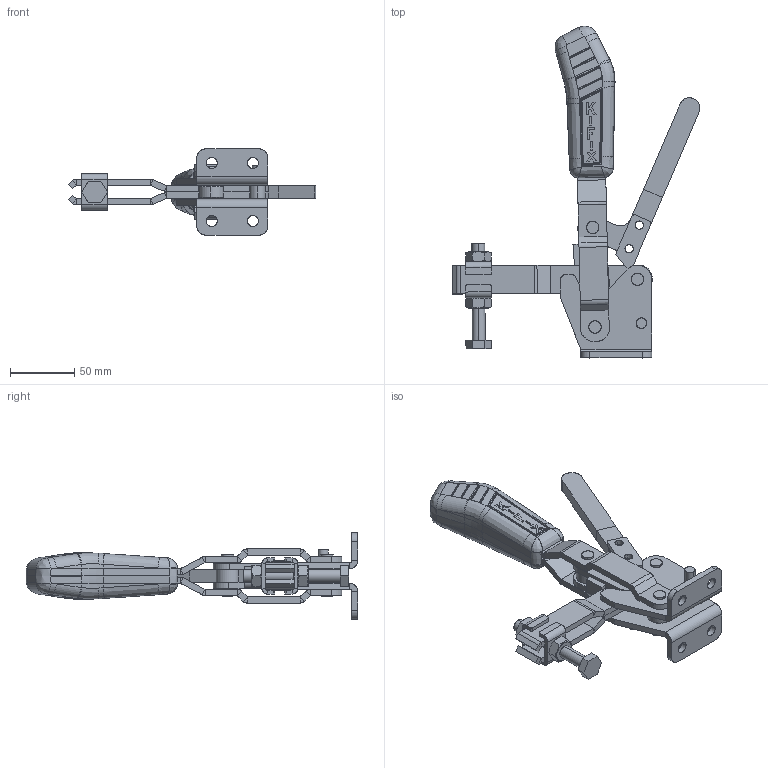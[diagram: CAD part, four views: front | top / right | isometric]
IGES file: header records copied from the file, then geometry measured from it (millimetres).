
Start section: SolidWorks IGES file using analytic representation for surfaces
Global section: file name: C:\Projetos\Grampos\KF-111\KF-111 DB TR\KF-111 DB TR.IGS; native system: SolidWorks 2013; preprocessor: SolidWorks 2013; author: Ricardo; date: 140728.155407; units: millimetre
Bounding box: 192.21 x 257.61 x 67 mm (x, y, z)
Surface area: 117186.9 mm2 (no closed solid volume)
Topology: 0 solids, 0 shells, 898 faces, 9668 edges, 9641 vertices
Faces by surface type: bspline 537, revolution 361
